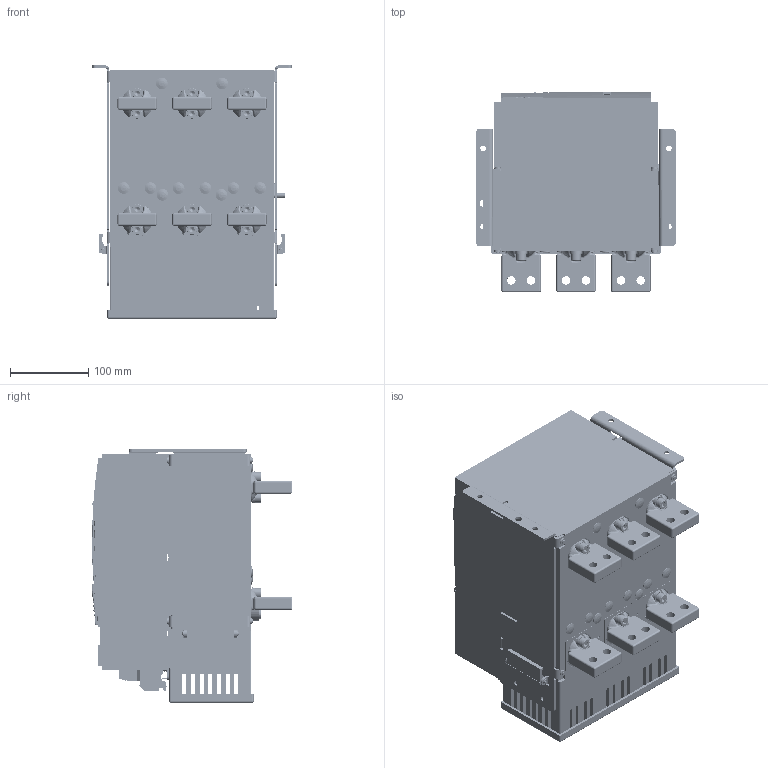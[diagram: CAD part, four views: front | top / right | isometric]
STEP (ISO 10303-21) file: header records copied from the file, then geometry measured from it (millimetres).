
FILE_DESCRIPTION(/* description */ (''),/* implementation_level */ '2;1');
FILE_NAME(/* name */ 'C:/Users/carlos.gonzalez/Documents/ADRIAN_TEMP_DRAWING/Ex9A16_F_3P_Public_PB_Drawing.step',/* time_stamp */ '2021-10-14T11:55:45+02:00',/* author */ (''),/* organization */ (''),/* preprocessor_version */ 'ST-DEVELOPER v18.1',/* originating_system */ 'Autodesk Translation Framework v10.10.0.1391',/* authorisation */ '');
FILE_SCHEMA (('AUTOMOTIVE_DESIGN { 1 0 10303 214 3 1 1 }'));
Products named in the file (377): Ex9A16_F_3P_Public; Body (1); Frame Back (1); GBT818-M6X45_25_1_1 (1); 5024A15260012_ASM_19_ASM_1_ASM__ASM (1); 8024A0203002_38_1_1 (1); GBT818-M5X14_25_1_1 (1); GBT848-6_9_1_1 (1); GBT7244-6_4_1_1 (1); GBT818-M6X55_25_1_1 (1); 8320A0101001_5_1_1 (1); 8210A0101001_8_1_1 (1); Body Top (1); 8300A0203004_27_1_1 (1); 5300A0203004_ASM_18_ASM_1_ASM_1_ASM (1); 5300A0203004V1_56_1_1 (1); GBT809-M4X12-B_6_1_1 (1); GBT809-M4X5-A_6_1_1 (1); Frame front (1); 5024A0203002V_42_1_1 (1); GBT809-M4X8-B_6_1_1 (1); 8940A0411002_6_1_1 (1); GBT809-M6X12-B_6_1_1 (1); 5024A0203002_ASM_20_ASM_1_ASM_1_ASM (1); 8940A0411001_8_1_1 (1); GBT809-M3X8-B_6_1_1 (1); Frame sides (1); 5050A1526004_ASM_4_ASM_1_ASM_1_ASM (1); 8050A0306006_37_1_1 (1); 5050A1526003_ASM_5_ASM_1_ASM_1_ASM (1); 8050A0306005_21_1_1 (1); 8123A0726001_6_1_1 (1); 8206A0312004_6_1_1 (1); GBT896-3_8_1_1 (1); 8210A0312014_4_1_1 (1); GBT818-M5X110_25_1_1 (1); GBT848-5_9_1_1 (1); GBT93-5_10_1_1 (1); Cover (1); 8300A0101137_1_1 (1)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
Assembly tree (650 placements, depth 5):
  Ex9A16_F_3P_Public
    Body (1)
      Frame Back (1)
        GBT848-6_9_1_1 (1)  x7
        GBT7244-6_4_1_1 (1)  x7
        GBT818-M6X45_25_1_1 (1)  x3
        5024A15260012_ASM_19_ASM_1_ASM__ASM (1)
          8024A0203002_38_1_1 (1)
          GBT848-5_9_1_1 (1)  x6
          GBT93-5_10_1_1 (1)  x6
          GBT818-M5X14_25_1_1 (1)  x6
        GBT818-M6X55_25_1_1 (1)  x4
        8320A0101001_5_1_1 (1)  x10
        8210A0101001_8_1_1 (1)  x3
      Body Top (1)
        8300A0203004_27_1_1 (1)
        5300A0203004_ASM_18_ASM_1_ASM_1_ASM (1)
          5300A0203004V1_56_1_1 (1)
          GBT809-M4X12-B_6_1_1 (1)  x8
          GBT809-M4X5-A_6_1_1 (1)  x4
      Frame front (1)
        5024A0203002V_42_1_1 (1)
        GBT809-M3X8-B_6_1_1 (1)  x3
        GBT809-M4X8-B_6_1_1 (1)  x4
        8940A0411002_6_1_1 (1)  x5
        GBT809-M6X12-B_6_1_1 (1)  x3
        5024A0203002_ASM_20_ASM_1_ASM_1_ASM (1)
          8940A0411001_8_1_1 (1)  x4
          GBT809-M3X8-B_6_1_1 (1)  x2
      Frame sides (1)
        5050A1526004_ASM_4_ASM_1_ASM_1_ASM (1)
          8050A0306006_37_1_1 (1)
          8123A0726001_6_1_1 (1)
          8206A0312004_6_1_1 (1)
          GBT896-3_8_1_1 (1)  x2
          8210A0312014_4_1_1 (1)  x2
        GBT818-M5X110_25_1_1 (1)  x4
        5050A1526003_ASM_5_ASM_1_ASM_1_ASM (1)
          8050A0306005_21_1_1 (1)
          8123A0726001_6_1_1 (1)
          8206A0312004_6_1_1 (1)
          GBT896-3_8_1_1 (1)  x2
          8210A0312014_4_1_1 (1)  x2
        GBT848-5_9_1_1 (1)  x4
        GBT93-5_10_1_1 (1)  x4
    Cover (1)
      8300A0101137_1_1 (1)
      8253A0101009_16_1_1 (1)
      8253A0010_1 (1) (1)
      8253A0009_1 (1) (1)
    Smart Unit (1)
      SMARTUNIT_ASM_8_ASM_1_ASM (1)
        8005A0101008_146_1 (1)
        8320A0101004_48_1 (1)
        8253A0101008_12_1 (1)
        8860A1424009_6_1 (1)  x2
        8860A1424007_3_1 (1)
      Base of Smart unit (1)
        5043A0101001_ASM_13_ASM_1_ASM (1)
          5043A0101001_28_1 (1)
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Bounding box: 254 x 255.74 x 323 mm (x, y, z)
Volume: 3749442.7 mm3; surface area: 1683832.8 mm2
Topology: 329 solids, 407 shells, 15397 faces, 41540 edges, 27196 vertices
Faces by surface type: plane 10670, cylinder 3822, bspline 351, cone 316, torus 137, sphere 101
Full cylindrical faces by diameter (mm): 1 x2, 2 x5, 2.1 x2, 2.4 x5, 2.459 x5, 3 x28, 3.1 x2, 3.242 x19, 3.4 x4, 3.5 x5, 4 x48, 4.134 x12, 4.2 x10, 4.3 x1, 4.5 x16, 4.917 x10, 5 x92, 5.1 x4, 5.3 x12, 5.5 x4, 5.8 x1, 6 x87, 6.4 x7, 6.5 x13, 6.647 x12, 7 x14, 8 x26, 8.3 x2, 8.4 x12, 8.5 x16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
Entity records: 154579 total; most frequent: CARTESIAN_POINT 39164, DIRECTION 23469, ORIENTED_EDGE 22368, EDGE_CURVE 11220, LINE 8105, VECTOR 8105, AXIS2_PLACEMENT_3D 7682, VERTEX_POINT 7361
